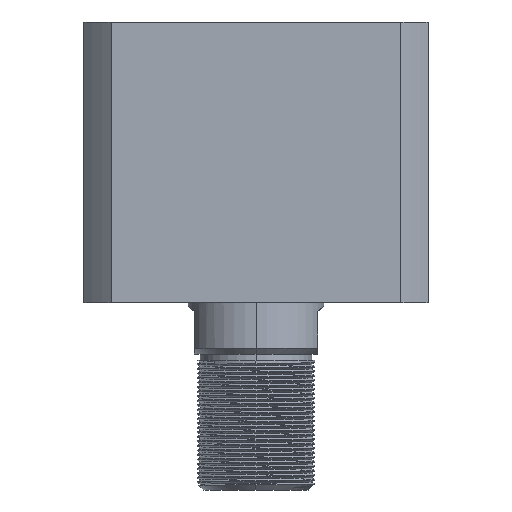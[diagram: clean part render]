
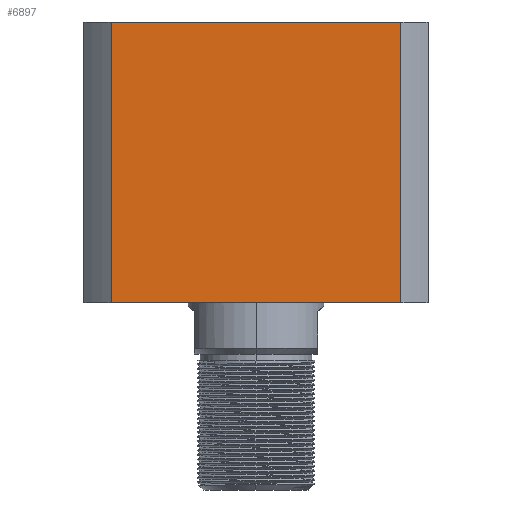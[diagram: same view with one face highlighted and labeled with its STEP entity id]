
A CAD part, front view. The second image highlights one B-rep face of the part: STEP entity #6897.
In plain terms, the highlighted planar face has unit normal (0, -1, 0) as drawn and (-1, 0, 0) by its records, which use the part's own axes.
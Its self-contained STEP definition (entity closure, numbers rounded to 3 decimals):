
#181 = CARTESIAN_POINT ( 'NONE',  ( -57., 47.971, -207. ) ) ;
#1811 = CARTESIAN_POINT ( 'NONE',  ( -57., 57., 0. ) ) ;
#2053 = LINE ( 'NONE', #15283, #6272 ) ;
#2104 = CARTESIAN_POINT ( 'NONE',  ( -57., 57., 93. ) ) ;
#3399 = ORIENTED_EDGE ( 'NONE', *, *, #8721, .T. ) ;
#3432 = LINE ( 'NONE', #181, #19261 ) ;
#3596 = VECTOR ( 'NONE', #8251, 1000. ) ;
#3694 = EDGE_CURVE ( 'NONE', #13384, #7775, #10121, .T. ) ;
#4582 = LINE ( 'NONE', #1811, #3596 ) ;
#5511 = VERTEX_POINT ( 'NONE', #20272 ) ;
#5617 = EDGE_CURVE ( 'NONE', #5511, #19240, #3432, .T. ) ;
#6272 = VECTOR ( 'NONE', #20181, 1000. ) ;
#6420 = VECTOR ( 'NONE', #11044, 1000. ) ;
#6897 = ADVANCED_FACE ( 'NONE', ( #9064 ), #16395, .F. ) ;
#6938 = DIRECTION ( 'NONE',  ( 1., 0., 0. ) ) ;
#7148 = CARTESIAN_POINT ( 'NONE',  ( -57., 47.971, 93. ) ) ;
#7301 = ORIENTED_EDGE ( 'NONE', *, *, #5617, .F. ) ;
#7775 = VERTEX_POINT ( 'NONE', #11606 ) ;
#7875 = CARTESIAN_POINT ( 'NONE',  ( -57., -47.971, -207. ) ) ;
#8251 = DIRECTION ( 'NONE',  ( 0., -1., 0. ) ) ;
#8721 = EDGE_CURVE ( 'NONE', #5511, #7775, #4582, .T. ) ;
#9064 = FACE_OUTER_BOUND ( 'NONE', #15619, .T. ) ;
#10121 = LINE ( 'NONE', #7875, #6420 ) ;
#10181 = AXIS2_PLACEMENT_3D ( 'NONE', #2104, #6938, #17985 ) ;
#10326 = CARTESIAN_POINT ( 'NONE',  ( -57., -47.971, 93. ) ) ;
#11029 = EDGE_CURVE ( 'NONE', #19240, #13384, #2053, .T. ) ;
#11044 = DIRECTION ( 'NONE',  ( 0., 0., -1. ) ) ;
#11606 = CARTESIAN_POINT ( 'NONE',  ( -57., -47.971, 0. ) ) ;
#13384 = VERTEX_POINT ( 'NONE', #10326 ) ;
#15283 = CARTESIAN_POINT ( 'NONE',  ( -57., 57., 93. ) ) ;
#15619 = EDGE_LOOP ( 'NONE', ( #7301, #3399, #20118, #17672 ) ) ;
#15958 = DIRECTION ( 'NONE',  ( 0., 0., 1. ) ) ;
#16395 = PLANE ( 'NONE',  #10181 ) ;
#17672 = ORIENTED_EDGE ( 'NONE', *, *, #11029, .F. ) ;
#17985 = DIRECTION ( 'NONE',  ( 0., 1., 0. ) ) ;
#19240 = VERTEX_POINT ( 'NONE', #7148 ) ;
#19261 = VECTOR ( 'NONE', #15958, 1000. ) ;
#20118 = ORIENTED_EDGE ( 'NONE', *, *, #3694, .F. ) ;
#20181 = DIRECTION ( 'NONE',  ( 0., -1., 0. ) ) ;
#20272 = CARTESIAN_POINT ( 'NONE',  ( -57., 47.971, 0. ) ) ;
